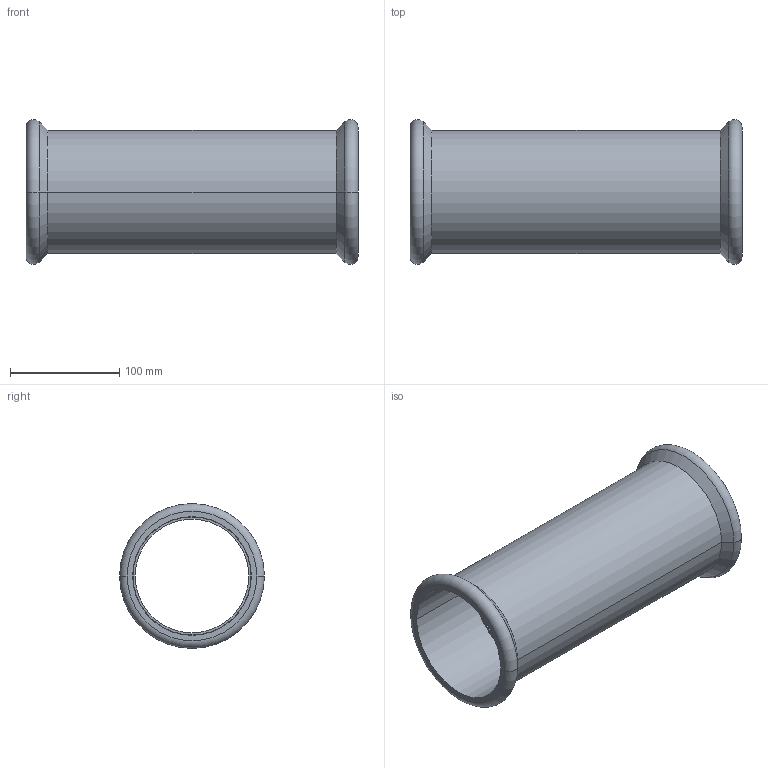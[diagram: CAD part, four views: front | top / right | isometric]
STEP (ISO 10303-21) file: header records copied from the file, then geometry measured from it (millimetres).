
FILE_DESCRIPTION(('CoCreate Modeling STEP Export'),'2;1');
FILE_NAME('C1403 108x108.stp','2014-11-07T14:11:05',(''),(''),'CoCreate Modeling STEP processor for AP214 (Solid Model)','CoCreate Modeling 17.00A 17-Jun-2010 (C) Parametric Technology GmbH','');
FILE_SCHEMA(('AUTOMOTIVE_DESIGN { 1 0 10303 214 1 1 1 1 }'));
Length unit declared in the file: millimetre
Products named in the file (2): C1403_108x108
Assembly tree (1 placements, depth 2):
  C1403_108x108
    C1403_108x108
Bounding box: 304 x 132.58 x 132.58 mm (x, y, z)
Volume: 437407.7 mm3; surface area: 222680.8 mm2
Topology: 1 solids, 1 shells, 26 faces, 54 edges, 34 vertices
Faces by surface type: cylinder 12, plane 6, cone 4, torus 4
Entity records: 617 total; most frequent: ORIENTED_EDGE 108, DIRECTION 92, CARTESIAN_POINT 88, EDGE_CURVE 54, AXIS2_PLACEMENT_3D 38, VERTEX_POINT 34, EDGE_LOOP 32, FACE_OUTER_BOUND 26
